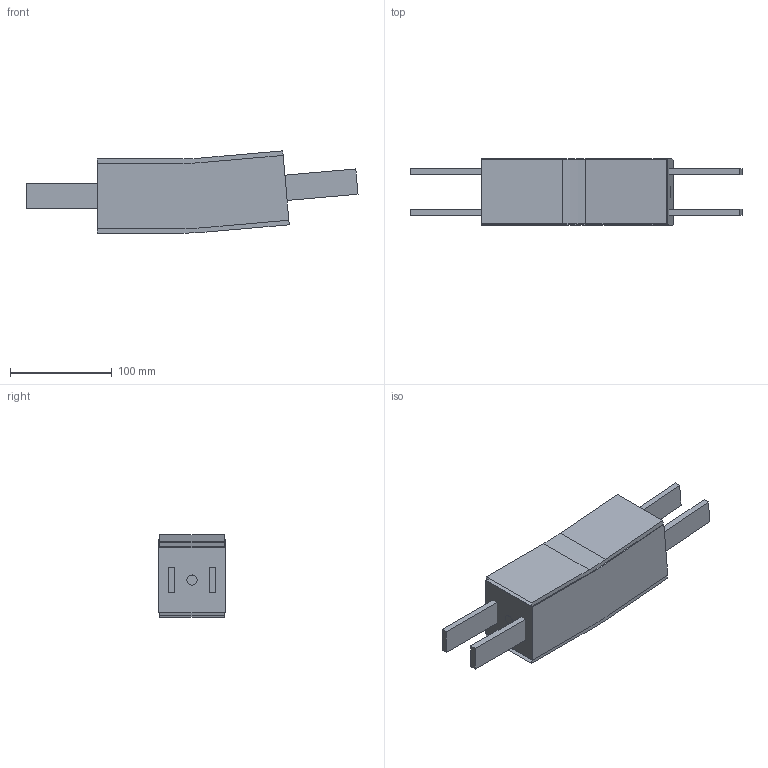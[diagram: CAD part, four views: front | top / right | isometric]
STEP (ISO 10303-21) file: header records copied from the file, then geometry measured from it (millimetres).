
FILE_DESCRIPTION(/* description */ ('Vertikaler Gleitbogen, 5°, R300'),/* implementation_level */ '2;1');
FILE_NAME(/* name */ 'T:\vdz0\Step Daten Website\modulflex FL-System\Vertikale Gleitbögen\FLBV 05R300_43662.stp',/* time_stamp */ '2024-09-03T09:56:11+02:00',/* author */ ('lzb0'),/* organization */ ('modular automation GmbH'),/* preprocessor_version */ 'ST-DEVELOPER v18.1',/* originating_system */ 'Autodesk Inventor 2021',/* authorisation */ '');
FILE_SCHEMA (('AUTOMOTIVE_DESIGN { 1 0 10303 214 3 1 1 }'));
Length unit declared in the file: millimetre
Products named in the file (1): FLBV 05R300
Bounding box: 326.67 x 65 x 80.98 mm (x, y, z)
Volume: 858508.5 mm3; surface area: 143171.3 mm2
Topology: 5 solids, 9 shells, 52 faces, 126 edges, 84 vertices
Faces by surface type: plane 44, cylinder 8
Full cylindrical faces by diameter (mm): 10 x2
Entity records: 1598 total; most frequent: CARTESIAN_POINT 270, DIRECTION 250, ORIENTED_EDGE 232, EDGE_CURVE 126, LINE 110, VECTOR 110, VERTEX_POINT 84, AXIS2_PLACEMENT_3D 70
